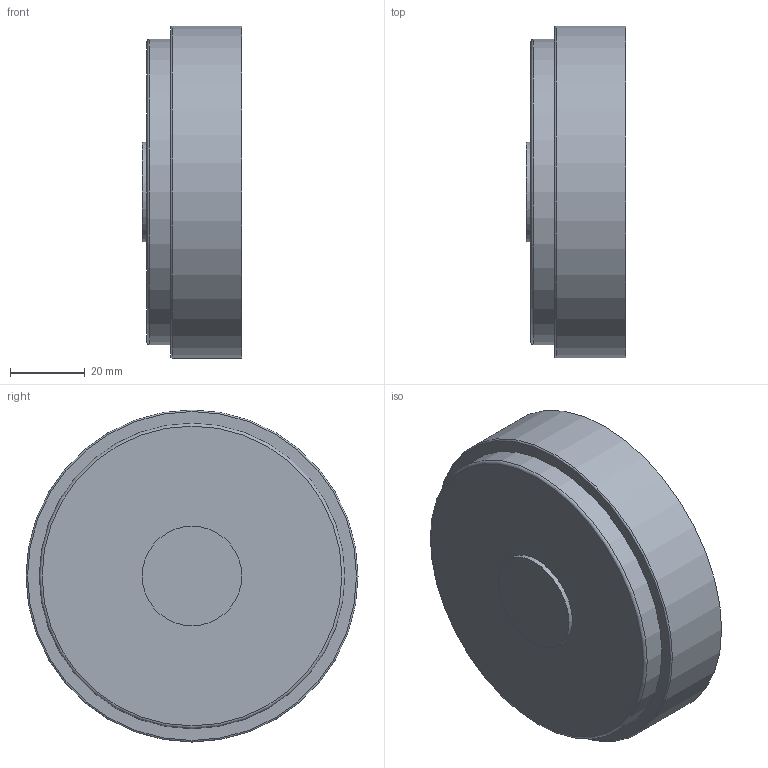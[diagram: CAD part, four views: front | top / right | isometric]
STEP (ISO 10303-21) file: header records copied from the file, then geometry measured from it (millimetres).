
FILE_DESCRIPTION(/* description */ ('VIC STRENGTHIN CAP No E496 w/Tap 1/2 inch BSPT (Concentric)','CAx-IF Rec.Pracs.---Representation and Presentation of Product Manufacturing Information (PMI)---4.0---2014-10-13'),/* implementation_level */ '2;1');
FILE_NAME(/* name */ 'C:\Users\Vjadhav\AppData\Roaming\Autodesk\ApplicationPlugins\Back Up\Victaulic_SS-StrengThin 100_Cap With Tap_No E496 (ST1)\Victaulic_SS-StrengThin 100_Cap With Tap_No E496 (ST1)_03.0x0.75 (80x20).stp',/* time_stamp */ '2020-07-07T18:46:50+05:00',/* author */ ('jheald'),/* organization */ ('Victaulic'),/* preprocessor_version */ 'ST-DEVELOPER v17.2',/* originating_system */ 'Autodesk Inventor 2019',/* authorisation */ '');
FILE_SCHEMA (('AP242_MANAGED_MODEL_BASED_3D_ENGINEERING_MIM_LF { 1 0 10303 442 1 1 4 }'));
Length unit declared in the file: inch
Products named in the file (1): E496-03.0x0.75
Bounding box: 26.67 x 88.9 x 88.9 mm (x, y, z)
Volume: 101395.1 mm3; surface area: 21951.4 mm2
Topology: 1 solids, 1 shells, 11 faces, 26 edges, 20 vertices
Faces by surface type: plane 5, cylinder 4, torus 2
Full cylindrical faces by diameter (mm): 26.67 x1, 77.927 x1, 81.788 x1, 88.9 x1
Entity records: 489 total; most frequent: DIRECTION 98, CARTESIAN_POINT 75, ORIENTED_EDGE 52, AXIS2_PLACEMENT_3D 47, EDGE_CURVE 26, CIRCLE 22, VERTEX_POINT 20, EDGE_LOOP 14
